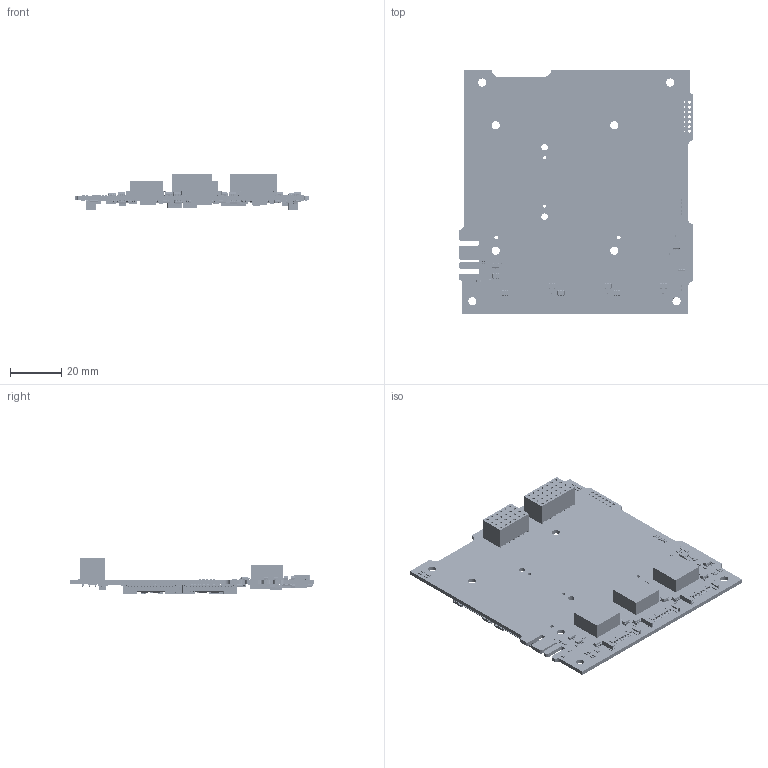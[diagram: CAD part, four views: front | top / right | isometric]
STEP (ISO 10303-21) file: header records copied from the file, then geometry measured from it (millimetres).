
FILE_DESCRIPTION((''),'2;1');
FILE_NAME('ISIS-ICEPSV2-6-0-001_TYPEB','2020-02-20T',('sjay'),(''),'PRO/ENGINEER BY PARAMETRIC TECHNOLOGY CORPORATION, 2015110','PRO/ENGINEER BY PARAMETRIC TECHNOLOGY CORPORATION, 2015110','');
FILE_SCHEMA(('CONFIG_CONTROL_DESIGN'));
Products named in the file (1): ISIS-ICEPSV2-6-0-001_TYPEB
Bounding box: 92 x 96 x 14.01 mm (x, y, z)
Volume: 21375.6 mm3; surface area: 30190.8 mm2
Topology: 1 solids, 1 shells, 20113 faces, 61229 edges, 40750 vertices
Faces by surface type: plane 13973, cylinder 5763, extrusion 313, sphere 48, cone 16
Entity records: 702297 total; most frequent: CARTESIAN_POINT 139066, ORIENTED_EDGE 122362, DIRECTION 111864, EDGE_CURVE 61181, VECTOR 49316, LINE 49003, VERTEX_POINT 40750, AXIS2_PLACEMENT_3D 31274
